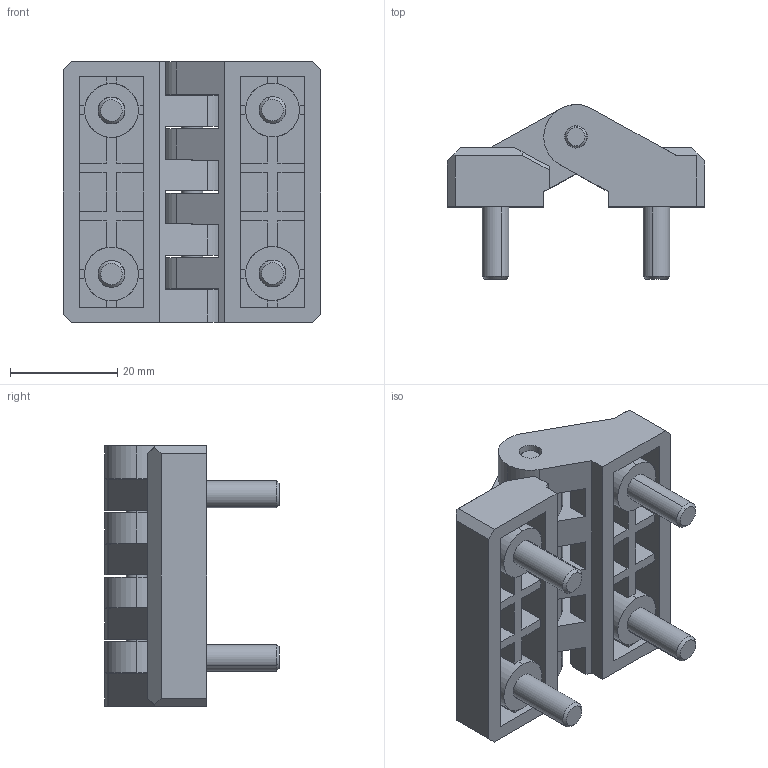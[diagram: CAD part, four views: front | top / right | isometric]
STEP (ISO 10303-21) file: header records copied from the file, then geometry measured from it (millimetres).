
FILE_DESCRIPTION (( 'STEP AP214' ), '1' );
FILE_NAME ('3.ZN48.001.STEP', '2010-06-09T15:49:46', ( '£ukasz Cieæka' ), ( '' ), 'SwSTEP 2.0', 'SolidWorks 2010', '' );
FILE_SCHEMA (( 'AUTOMOTIVE_DESIGN' ));
Length unit declared in the file: millimetre
Products named in the file (4): 3.ZN48-PA.001.01; 3.ZN48-PA.001.02_Default; M5-szpilka,gwint-2; 3.ZN48.001
Assembly tree (7 placements, depth 2):
  3.ZN48.001
    3.ZN48-PA.001.02_Default
    3.ZN48-PA.001.01  x2
    M5-szpilka,gwint-2  x4
Bounding box: 48 x 32.5 x 48.5 mm (x, y, z)
Volume: 23197.8 mm3; surface area: 16228.5 mm2
Topology: 7 solids, 7 shells, 409 faces, 1149 edges, 760 vertices
Faces by surface type: plane 293, cone 58, cylinder 58
Entity records: 9416 total; most frequent: CARTESIAN_POINT 1858, ORIENTED_EDGE 1602, DIRECTION 1494, EDGE_CURVE 801, VERTEX_POINT 532, LINE 526, VECTOR 526, AXIS2_PLACEMENT_3D 484
